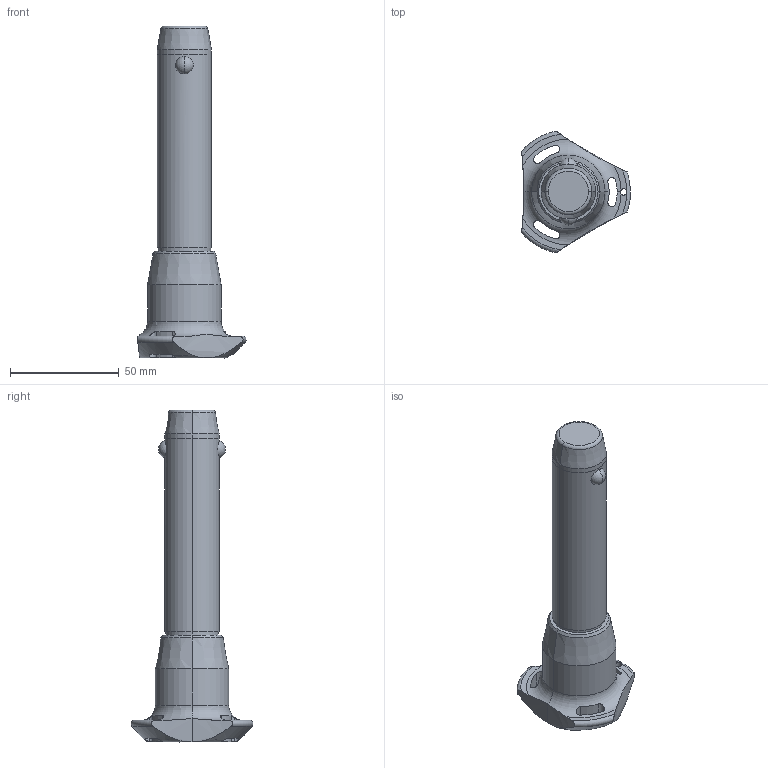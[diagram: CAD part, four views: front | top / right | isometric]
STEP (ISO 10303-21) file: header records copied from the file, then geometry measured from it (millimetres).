
FILE_DESCRIPTION (( 'STEP AP203' ), '1' );
FILE_NAME ('QR1726.M25-080-T.step', '2025-11-13T11:28:40', ( '' ), ( '' ), 'SwSTEP 2.0', 'SolidWorks 2019', '' );
FILE_SCHEMA (( 'CONFIG_CONTROL_DESIGN' ));
Length unit declared in the file: millimetre
Products named in the file (1): QR1726.M25-080-T
Bounding box: 50.04 x 56.02 x 152.7 mm (x, y, z)
Volume: 97721.7 mm3; surface area: 17733 mm2
Topology: 1 solids, 1 shells, 68 faces, 182 edges, 115 vertices
Faces by surface type: cylinder 32, cone 14, torus 11, sphere 6, plane 5
Entity records: 2938 total; most frequent: CARTESIAN_POINT 1192, ORIENTED_EDGE 364, DIRECTION 345, EDGE_CURVE 182, AXIS2_PLACEMENT_3D 154, VERTEX_POINT 115, CIRCLE 85, EDGE_LOOP 75
